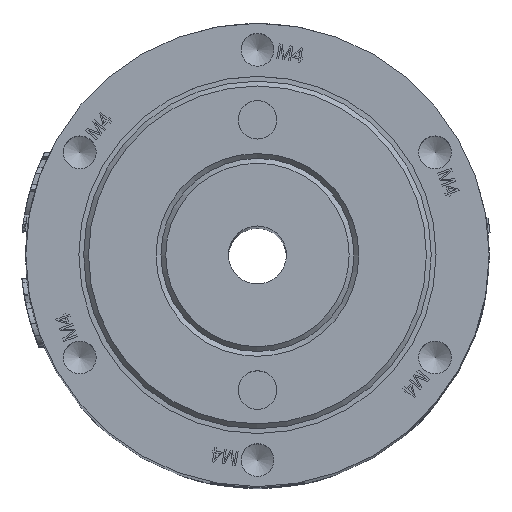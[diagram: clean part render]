
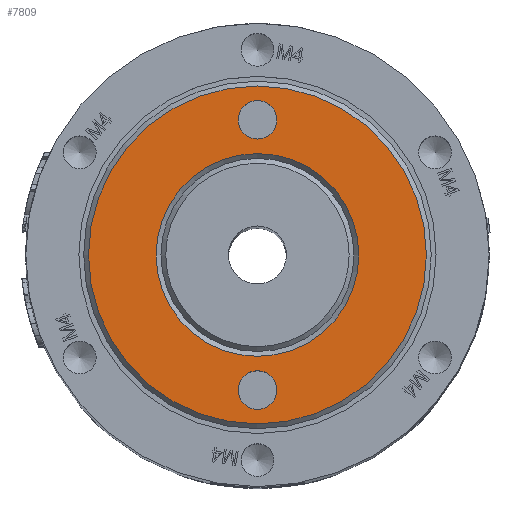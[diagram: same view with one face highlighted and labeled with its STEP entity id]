
A CAD part, top view. The second image highlights one B-rep face of the part: STEP entity #7809.
In plain terms, the highlighted planar face has unit normal (0, 0, 1).
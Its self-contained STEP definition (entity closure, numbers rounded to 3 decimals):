
#304=FACE_BOUND('',#12984,.T.);
#305=FACE_BOUND('',#12985,.T.);
#306=FACE_BOUND('',#12986,.T.);
#307=FACE_BOUND('',#12987,.T.);
#903=CIRCLE('',#39935,2.);
#904=CIRCLE('',#39936,2.);
#905=CIRCLE('',#39937,10.5);
#906=CIRCLE('',#39938,17.5);
#7809=ADVANCED_FACE('',(#304,#305,#306,#307),#9256,.T.);
#9256=PLANE('',#39939);
#12984=EDGE_LOOP('',(#20432));
#12985=EDGE_LOOP('',(#20433));
#12986=EDGE_LOOP('',(#20434));
#12987=EDGE_LOOP('',(#20435));
#20432=ORIENTED_EDGE('',*,*,#33905,.T.);
#20433=ORIENTED_EDGE('',*,*,#33906,.T.);
#20434=ORIENTED_EDGE('',*,*,#33907,.T.);
#20435=ORIENTED_EDGE('',*,*,#33908,.T.);
#28474=VERTEX_POINT('',#71102);
#28475=VERTEX_POINT('',#71104);
#28476=VERTEX_POINT('',#71106);
#28477=VERTEX_POINT('',#71108);
#33905=EDGE_CURVE('',#28474,#28474,#903,.T.);
#33906=EDGE_CURVE('',#28475,#28475,#904,.T.);
#33907=EDGE_CURVE('',#28476,#28476,#905,.T.);
#33908=EDGE_CURVE('',#28477,#28477,#906,.T.);
#39935=AXIS2_PLACEMENT_3D('',#71101,#45057,#45058);
#39936=AXIS2_PLACEMENT_3D('',#71103,#45059,#45060);
#39937=AXIS2_PLACEMENT_3D('',#71105,#45061,#45062);
#39938=AXIS2_PLACEMENT_3D('',#71107,#45063,#45064);
#39939=AXIS2_PLACEMENT_3D('',#71109,#45065,#45066);
#45057=DIRECTION('',(0.,0.,-1.));
#45058=DIRECTION('',(1.,0.,0.));
#45059=DIRECTION('',(0.,0.,-1.));
#45060=DIRECTION('',(-1.,0.,0.));
#45061=DIRECTION('',(0.,0.,-1.));
#45062=DIRECTION('',(1.,0.,0.));
#45063=DIRECTION('',(0.,0.,1.));
#45064=DIRECTION('',(1.,0.,0.));
#45065=DIRECTION('',(0.,0.,1.));
#45066=DIRECTION('',(1.,0.,0.));
#71101=CARTESIAN_POINT('',(0.,14.,140.5));
#71102=CARTESIAN_POINT('',(2.,14.,140.5));
#71103=CARTESIAN_POINT('',(0.,-14.,140.5));
#71104=CARTESIAN_POINT('',(-2.,-14.,140.5));
#71105=CARTESIAN_POINT('',(0.,0.,140.5));
#71106=CARTESIAN_POINT('',(10.5,0.,140.5));
#71107=CARTESIAN_POINT('',(0.,0.,140.5));
#71108=CARTESIAN_POINT('',(17.5,0.,140.5));
#71109=CARTESIAN_POINT('',(0.,0.,140.5));
